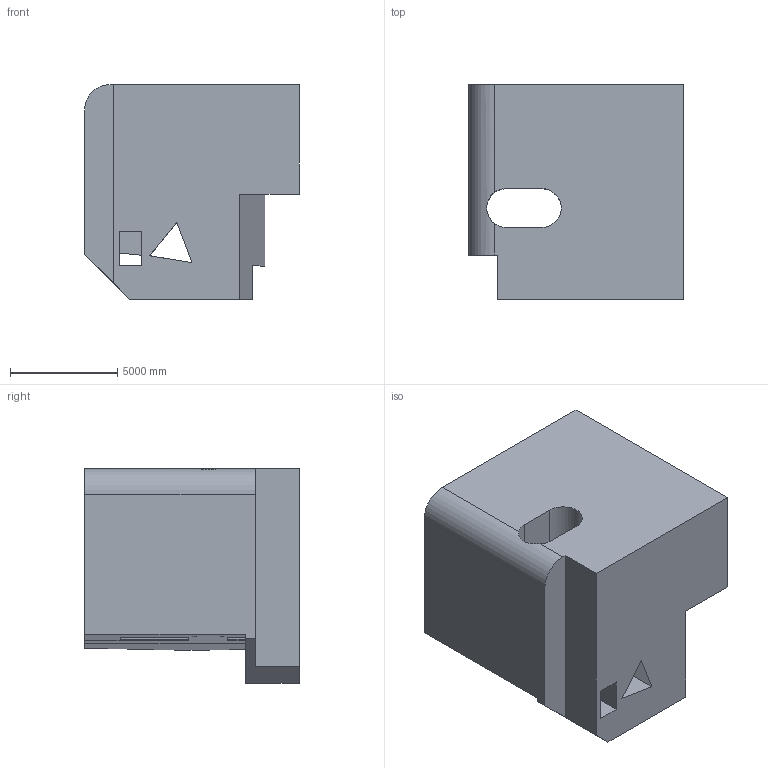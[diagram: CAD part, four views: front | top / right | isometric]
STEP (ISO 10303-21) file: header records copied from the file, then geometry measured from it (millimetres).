
FILE_DESCRIPTION (( 'STEP AP203' ), '1' );
FILE_NAME ('1796.STEP', '2022-08-19T12:57:39', ( 'user' ), ( '' ), 'SwSTEP 2.0', 'SolidWorks 2021', '' );
FILE_SCHEMA (( 'CONFIG_CONTROL_DESIGN' ));
Length unit declared in the file: centimetre
Products named in the file (1): 1796
Bounding box: 10000 x 10000 x 10000 mm (x, y, z)
Volume: 678801801352.4 mm3; surface area: 631074773.2 mm2
Topology: 1 solids, 1 shells, 35 faces, 111 edges, 74 vertices
Faces by surface type: plane 31, cylinder 4
Entity records: 1383 total; most frequent: CARTESIAN_POINT 322, ORIENTED_EDGE 222, DIRECTION 183, EDGE_CURVE 111, VECTOR 97, LINE 97, VERTEX_POINT 74, AXIS2_PLACEMENT_3D 43
